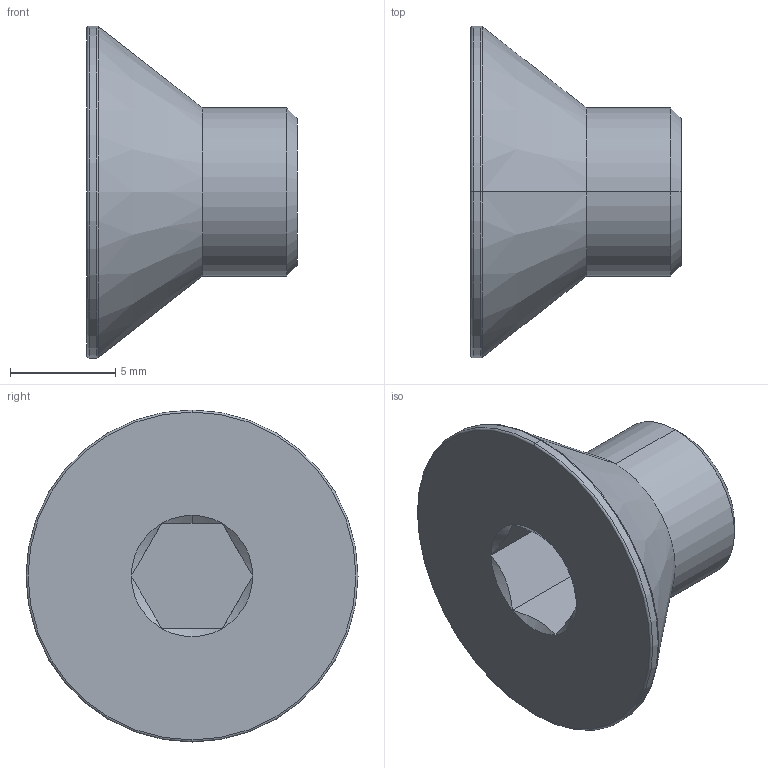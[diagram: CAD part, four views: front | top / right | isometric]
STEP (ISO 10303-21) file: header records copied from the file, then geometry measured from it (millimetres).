
FILE_DESCRIPTION (( 'STEP AP203' ), '1' );
FILE_NAME ('LGDB-304-M8x10.STEP', '2026-08-12T01:48:54', ( '' ), ( '' ), 'SwSTEP 2.0', 'SolidWorks 2020', '' );
FILE_SCHEMA (( 'CONFIG_CONTROL_DESIGN' ));
Length unit declared in the file: millimetre
Products named in the file (1): LGDB-304-M8x10
Bounding box: 10 x 15.8 x 15.8 mm (x, y, z)
Volume: 810 mm3; surface area: 678.6 mm2
Topology: 1 solids, 1 shells, 28 faces, 53 edges, 28 vertices
Faces by surface type: cone 11, plane 9, torus 4, cylinder 4
Entity records: 796 total; most frequent: CARTESIAN_POINT 157, DIRECTION 129, ORIENTED_EDGE 106, AXIS2_PLACEMENT_3D 54, EDGE_CURVE 53, EDGE_LOOP 29, FACE_OUTER_BOUND 28, ADVANCED_FACE 28
